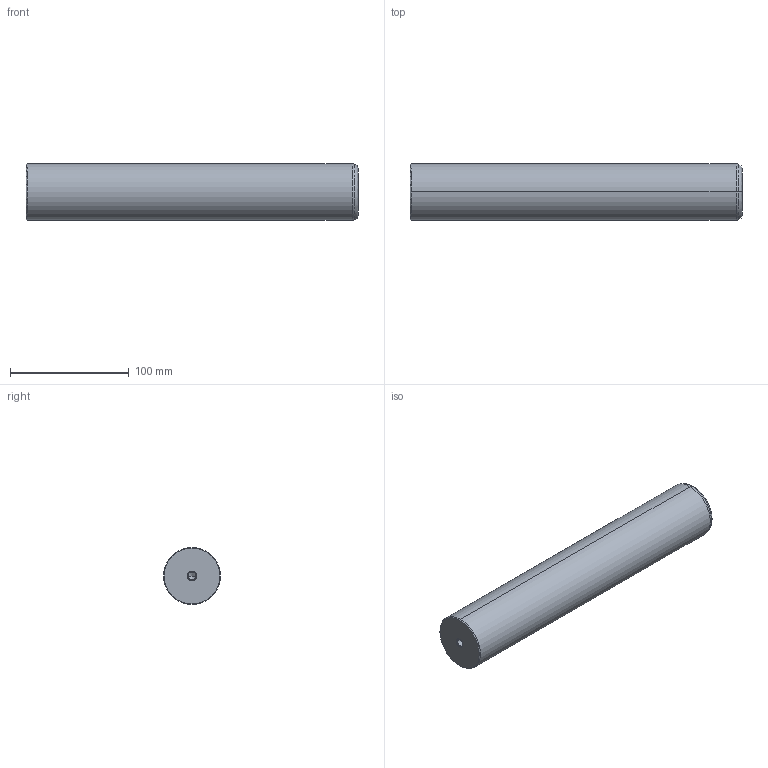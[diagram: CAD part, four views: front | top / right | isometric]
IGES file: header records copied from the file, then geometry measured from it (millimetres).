
Start section: START RECORD GO HERE.
Global section: file name: 720-48x280.igs; native system: DASSAULT SYSTEMES CATIA V5 R20 - www.3ds.com; preprocessor: CATIA Version 5 Release 20 ; author: Utente; organization: NB04-ASUS; date: 20201230.224959; units: millimetre
Bounding box: 280 x 48 x 48 mm (x, y, z)
Surface area: 46450.4 mm2 (no closed solid volume)
Topology: 0 solids, 0 shells, 22 faces, 108 edges, 104 vertices
Faces by surface type: revolution 20, plane 2
